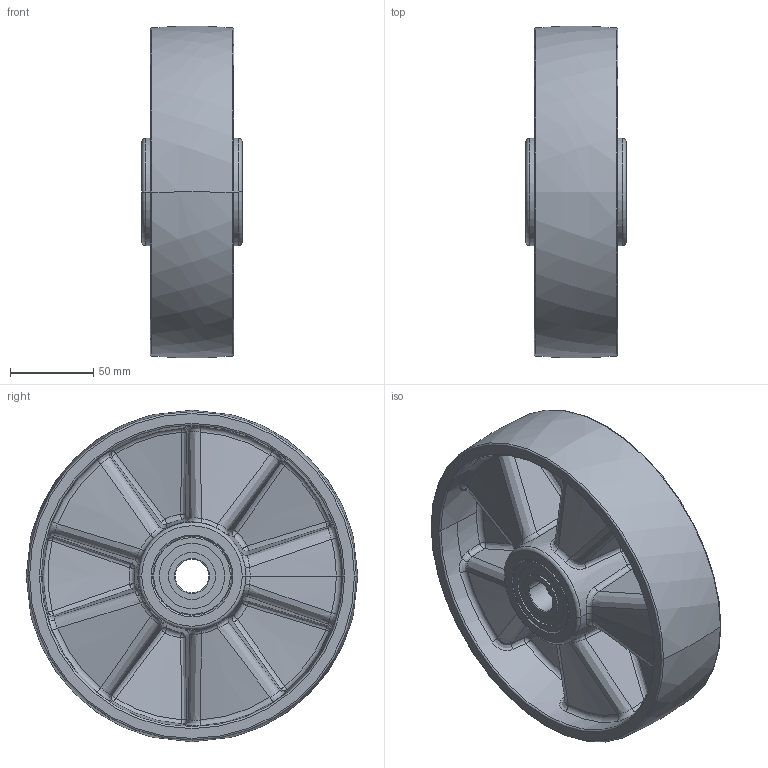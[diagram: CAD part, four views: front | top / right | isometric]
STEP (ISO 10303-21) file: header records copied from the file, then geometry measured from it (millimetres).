
FILE_DESCRIPTION (( 'STEP AP214' ), '1' );
FILE_NAME ('Wiberger-WN9014-200.STEP', '2026-04-21T05:57:27', ( '' ), ( '' ), 'SwSTEP 2.0', 'SolidWorks 2024', '' );
FILE_SCHEMA (( 'AUTOMOTIVE_DESIGN' ));
Length unit declared in the file: millimetre
Products named in the file (1): Wiberger-WN9014-200
Bounding box: 60 x 198.74 x 198.74 mm (x, y, z)
Volume: 578518.4 mm3; surface area: 181267.9 mm2
Topology: 28 solids, 32 shells, 1644 faces, 4418 edges, 2862 vertices
Faces by surface type: plane 1149, bspline 138, cone 109, sphere 90, torus 89, cylinder 69
Entity records: 65856 total; most frequent: CARTESIAN_POINT 30097, ORIENTED_EDGE 8596, DIRECTION 5450, EDGE_CURVE 4298, VERTEX_POINT 2790, B_SPLINE_CURVE_WITH_KNOTS 2470, AXIS2_PLACEMENT_3D 2115, EDGE_LOOP 1728
